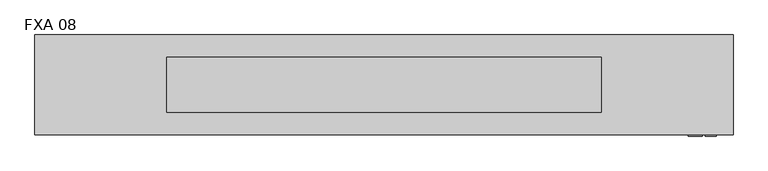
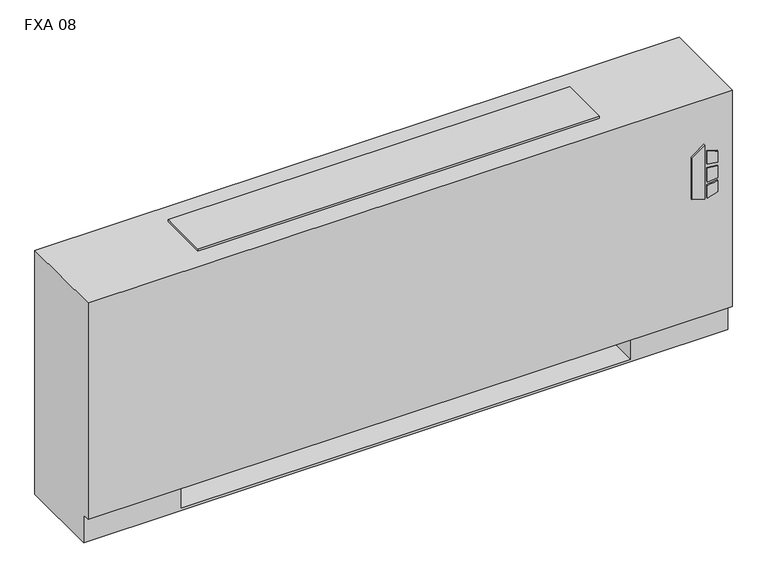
"""IFC4 building model written with IfcOpenShell, lengths in millimetres: proxy geometry, Vertical_Fan_Coil_Unit_-_FXA_-_IEC_-_2-Pipe_TS-FR_LH_2022 : FXA 08."""

from ifc_helpers import new_model, si_unit, point, frame, frame_2d, origin, place, context, project, spatial, polyline, circle_curve, trimmed, segment, composite_curve, outline, extrude, source, transform, mapped, element, save
from ifc_brep_helpers import plane_surface, revolved_surface, advanced_brep


def fxa_08_58934757(model_context):
    return source(origin(), model_context, "Body", "SolidModel", [
        extrude(outline(polyline([(391.6086829, 849.3868862), (381.6606126, 881.5602728), (523.831537, 881.5602728), (500.8095309, 849.3868862), (391.6086829, 849.3868862)])), frame((0.0, 12.7, 0.0), z_axis=(0.0, 1.0, 0.0), x_axis=(0.0, 0.0, 1.0)), (0.0, 0.0, 1.0), 3.175),
        extrude(outline(polyline([(470.6079683, 888.3186058), (467.4055757, 914.4), (496.6344168, 914.4), (504.6988318, 888.3186058), (470.6079683, 888.3186058)])), frame((0.0, 12.7, 0.0), z_axis=(0.0, 1.0, 0.0), x_axis=(0.0, 0.0, 1.0)), (0.0, 0.0, 1.0), 3.175),
        extrude(outline(polyline([(418.7444414, 914.4), (415.0789404, 888.3186058), (381.6606126, 888.3186058), (390.2948498, 914.4), (418.7444414, 914.4)])), frame((0.0, 12.7, 0.0), z_axis=(0.0, 1.0, 0.0), x_axis=(0.0, 0.0, 1.0)), (0.0, 0.0, 1.0), 3.175),
        extrude(outline(polyline([(458.0596028, 914.4), (460.3414292, 888.3186058), (424.4038806, 888.3186058), (427.1451456, 914.4), (458.0596028, 914.4)])), frame((0.0, 12.7, 0.0), z_axis=(0.0, 1.0, 0.0), x_axis=(0.0, 0.0, 1.0)), (0.0, 0.0, 1.0), 3.175),
        extrude(outline(polyline([(831.85, 223.266), (831.85, 81.534), (711.2, 81.534), (711.2, 223.266), (831.85, 223.266)])), frame((0.0, 0.0, 327.025), z_axis=(0.0, 0.0, 1.0), x_axis=(1.0, 0.0, 0.0)), (0.0, 0.0, 1.0), 260.35),
        extrude(outline(composite_curve([segment(trimmed(circle_curve(frame_2d((-469.9, 130.175)), 9.525), [point((-479.425, 130.175))], [point((-460.375, 130.175))], False, "CARTESIAN"), True, "CONTINUOUS"), segment(trimmed(circle_curve(frame_2d((-469.9, 130.175)), 9.525), [point((-460.375, 130.175))], [point((-479.425, 130.175))], False, "CARTESIAN"), True, "CONTINUOUS")], self_intersect=False)), frame((0.0, 0.0, 101.6), z_axis=(0.0, 0.0, 1.0), x_axis=(1.0, 0.0, 0.0)), (0.0, 0.0, 1.0), 25.4),
        extrude(outline(polyline([(-565.15, 63.5), (-565.15, 196.85), (-406.4, 196.85), (-406.4, 63.5), (-565.15, 63.5)])), frame((0.0, 0.0, 127.0), z_axis=(0.0, 0.0, 1.0), x_axis=(1.0, 0.0, 0.0)), (0.0, 0.0, 1.0), 50.8),
        extrude(outline(composite_curve([segment(trimmed(circle_curve(frame_2d((93.1926, 485.5972)), 7.9375), [point((93.1926, 493.5347))], [point((93.1926, 477.6597))], False, "CARTESIAN"), True, "CONTINUOUS"), segment(trimmed(circle_curve(frame_2d((93.1926, 485.5972)), 7.9375), [point((93.1926, 477.6597))], [point((93.1926, 493.5347))], False, "CARTESIAN"), True, "CONTINUOUS")], self_intersect=False)), frame((-457.2, 0.0, 0.0), z_axis=(1.0, 0.0, 0.0), x_axis=(0.0, 1.0, 0.0)), (0.0, 0.0, 1.0), 50.8),
        extrude(outline(composite_curve([segment(trimmed(circle_curve(frame_2d((141.3002, 458.9526)), 7.9375), [point((141.3002, 466.8901))], [point((141.3002, 451.0151))], False, "CARTESIAN"), True, "CONTINUOUS"), segment(trimmed(circle_curve(frame_2d((141.3002, 458.9526)), 7.9375), [point((141.3002, 451.0151))], [point((141.3002, 466.8901))], False, "CARTESIAN"), True, "CONTINUOUS")], self_intersect=False)), frame((-457.2, 0.0, 0.0), z_axis=(1.0, 0.0, 0.0), x_axis=(0.0, 1.0, 0.0)), (0.0, 0.0, 1.0), 50.8),
        advanced_brep(
        [(952.5, 244.475, 641.35), (-647.7, 244.475, 641.35), (-647.7, 15.875, 641.35), (952.5, 15.875, 641.35), (-647.7, 244.475, 0.0), (952.5, 244.475, 0.0), (952.5, 34.925, 0.0), (-647.7, 34.925, 0.0), (711.2, 244.475, 73.025), (939.8, 244.475, 73.025), (939.8, 244.475, 628.65), (711.2, 244.475, 628.65), (711.2, 244.475, 414.8650565), (739.775, 244.475, 414.8650565), (739.775, 244.475, 385.2349435), (711.2, 244.475, 385.2349435), (711.2, 244.475, 287.3375), (739.775, 244.475, 287.3375), (739.775, 244.475, 258.7625), (711.2, 244.475, 258.7625), (711.2, 244.475, 141.2875), (739.775, 244.475, 141.2875), (739.775, 244.475, 112.7125), (711.2, 244.475, 112.7125), (-406.4, 244.475, 628.65), (-635.0, 244.475, 628.65), (-635.0, 244.475, 73.025), (-406.4, 244.475, 73.025), (-406.4, 244.475, 112.7125), (-434.975, 244.475, 112.7125), (-434.975, 244.475, 141.2875), (-406.4, 244.475, 141.2875), (-406.4, 244.475, 258.7625), (-434.975, 244.475, 258.7625), (-434.975, 244.475, 287.3375), (-406.4, 244.475, 287.3375), (-406.4, 244.475, 385.2349435), (-434.975, 244.475, 385.2349435), (-434.975, 244.475, 414.8650565), (-406.4, 244.475, 414.8650565), (729.4626, 244.475, 127.0), (718.3374, 244.475, 127.0), (729.4626, 244.475, 400.05), (718.3374, 244.475, 400.05), (729.4626, 244.475, 273.05), (718.3374, 244.475, 273.05), (-413.5374, 244.475, 127.0), (-424.6626, 244.475, 127.0), (-413.5374, 244.475, 273.05), (-424.6626, 244.475, 273.05), (-413.5374, 244.475, 400.05), (-424.6626, 244.475, 400.05), (-647.7, 34.925, 73.025), (-647.7, 15.875, 73.025), (952.5, 15.875, 73.025), (952.5, 34.925, 73.025), (-406.4, 34.925, 73.025), (-406.4, 219.075, 73.025), (711.2, 219.075, 73.025), (711.2, 34.925, 73.025), (711.2, 34.925, 6.35), (-406.4, 34.925, 6.35), (711.2, 41.275, 628.65), (939.8, 41.275, 628.65), (939.8, 41.275, 73.025), (711.2, 41.275, 73.025), (-406.4, 41.275, 628.65), (-406.4, 41.275, 73.025), (-635.0, 41.275, 73.025), (-635.0, 41.275, 628.65), (711.2, 219.075, 73.025), (711.2, 238.125, 112.7125), (711.2, 238.125, 141.2875), (711.2, 238.125, 258.7625), (711.2, 238.125, 287.3375), (711.2, 238.125, 385.2349435), (711.2, 238.125, 414.8650565), (-406.4, 219.075, 73.025), (-406.4, 238.125, 414.8650565), (-406.4, 238.125, 385.2349435), (-406.4, 238.125, 287.3375), (-406.4, 238.125, 258.7625), (-406.4, 238.125, 141.2875), (-406.4, 238.125, 112.7125), (-406.4, 219.075, 6.35), (711.2, 219.075, 6.35), (739.775, 238.125, 112.7125), (739.775, 238.125, 141.2875), (718.3374, 238.125, 127.0), (729.4626, 238.125, 127.0), (739.775, 238.125, 258.7625), (739.775, 238.125, 287.3375), (718.3374, 238.125, 273.05), (729.4626, 238.125, 273.05), (739.775, 238.125, 385.2349435), (739.775, 238.125, 414.8650565), (718.3374, 238.125, 400.05), (729.4626, 238.125, 400.05), (-434.975, 238.125, 141.2875), (-434.975, 238.125, 112.7125), (-424.6626, 238.125, 127.0), (-413.5374, 238.125, 127.0), (-434.975, 238.125, 287.3375), (-434.975, 238.125, 258.7625), (-424.6626, 238.125, 273.05), (-413.5374, 238.125, 273.05), (-434.975, 238.125, 414.8650565), (-434.975, 238.125, 385.2349435), (-424.6626, 238.125, 400.05), (-413.5374, 238.125, 400.05)],
        [
            (0, 1),
            (1, 2),
            (2, 3),
            (3, 0),
            (4, 5),
            (5, 6),
            (6, 7),
            (7, 4),
            (0, 5),
            (4, 1),
            (8, 9),
            (9, 10),
            (10, 11),
            (11, 12),
            (12, 13),
            (13, 14),
            (14, 15),
            (15, 16),
            (16, 17),
            (17, 18),
            (18, 19),
            (19, 20),
            (20, 21),
            (21, 22),
            (22, 23),
            (23, 8),
            (24, 25),
            (25, 26),
            (26, 27),
            (27, 28),
            (28, 29),
            (29, 30),
            (30, 31),
            (31, 32),
            (32, 33),
            (33, 34),
            (34, 35),
            (35, 36),
            (36, 37),
            (37, 38),
            (38, 39),
            (39, 24),
            (40, 41, circle_curve(frame((723.9, 244.475, 127.0), z_axis=(0.0, -1.0, 0.0), x_axis=(-1.0, 0.0, 0.0)), 5.5626)),
            (41, 40, circle_curve(frame((723.9, 244.475, 127.0), z_axis=(0.0, -1.0, 0.0), x_axis=(-1.0, 0.0, 0.0)), 5.5626)),
            (42, 43, circle_curve(frame((723.9, 244.475, 400.05), z_axis=(0.0, -1.0, 0.0), x_axis=(-1.0, 0.0, 0.0)), 5.5626)),
            (43, 42, circle_curve(frame((723.9, 244.475, 400.05), z_axis=(0.0, -1.0, 0.0), x_axis=(-1.0, 0.0, 0.0)), 5.5626)),
            (44, 45, circle_curve(frame((723.9, 244.475, 273.05), z_axis=(0.0, -1.0, 0.0), x_axis=(-1.0, 0.0, 0.0)), 5.5626)),
            (45, 44, circle_curve(frame((723.9, 244.475, 273.05), z_axis=(0.0, -1.0, 0.0), x_axis=(-1.0, 0.0, 0.0)), 5.5626)),
            (46, 47, circle_curve(frame((-419.1, 244.475, 127.0), z_axis=(0.0, -1.0, 0.0), x_axis=(-1.0, 0.0, 0.0)), 5.5626)),
            (47, 46, circle_curve(frame((-419.1, 244.475, 127.0), z_axis=(0.0, -1.0, 0.0), x_axis=(-1.0, 0.0, 0.0)), 5.5626)),
            (48, 49, circle_curve(frame((-419.1, 244.475, 273.05), z_axis=(0.0, -1.0, 0.0), x_axis=(-1.0, 0.0, 0.0)), 5.5626)),
            (49, 48, circle_curve(frame((-419.1, 244.475, 273.05), z_axis=(0.0, -1.0, 0.0), x_axis=(-1.0, 0.0, 0.0)), 5.5626)),
            (50, 51, circle_curve(frame((-419.1, 244.475, 400.05), z_axis=(0.0, -1.0, 0.0), x_axis=(-1.0, 0.0, 0.0)), 5.5626)),
            (51, 50, circle_curve(frame((-419.1, 244.475, 400.05), z_axis=(0.0, -1.0, 0.0), x_axis=(-1.0, 0.0, 0.0)), 5.5626)),
            (7, 52),
            (52, 53),
            (53, 2),
            (53, 54),
            (54, 3),
            (54, 55),
            (55, 6),
            (52, 56),
            (56, 57),
            (57, 58),
            (58, 59),
            (59, 55),
            (59, 60),
            (60, 61),
            (61, 56),
            (62, 63),
            (63, 64),
            (64, 65),
            (65, 62),
            (66, 67),
            (67, 68),
            (68, 69),
            (69, 66),
            (65, 70),
            (70, 8),
            (23, 71),
            (71, 72),
            (72, 20),
            (19, 73),
            (73, 74),
            (74, 16),
            (15, 75),
            (75, 76),
            (76, 12),
            (11, 62),
            (64, 9),
            (63, 10),
            (69, 25),
            (24, 66),
            (68, 26),
            (67, 77),
            (77, 27),
            (39, 78),
            (78, 79),
            (79, 36),
            (35, 80),
            (80, 81),
            (81, 32),
            (31, 82),
            (82, 83),
            (83, 28),
            (57, 84),
            (84, 85),
            (85, 58),
            (85, 60),
            (84, 61),
            (71, 86),
            (86, 87),
            (87, 72),
            (88, 89, circle_curve(frame((723.9, 238.125, 127.0), z_axis=(0.0, 1.0, 0.0), x_axis=(-1.0, 0.0, 0.0)), 5.5626)),
            (89, 88, circle_curve(frame((723.9, 238.125, 127.0), z_axis=(0.0, 1.0, 0.0), x_axis=(-1.0, 0.0, 0.0)), 5.5626)),
            (73, 90),
            (90, 91),
            (91, 74),
            (92, 93, circle_curve(frame((723.9, 238.125, 273.05), z_axis=(0.0, 1.0, 0.0), x_axis=(-1.0, 0.0, 0.0)), 5.5626)),
            (93, 92, circle_curve(frame((723.9, 238.125, 273.05), z_axis=(0.0, 1.0, 0.0), x_axis=(-1.0, 0.0, 0.0)), 5.5626)),
            (75, 94),
            (94, 95),
            (95, 76),
            (96, 97, circle_curve(frame((723.9, 238.125, 400.05), z_axis=(0.0, 1.0, 0.0), x_axis=(-1.0, 0.0, 0.0)), 5.5626)),
            (97, 96, circle_curve(frame((723.9, 238.125, 400.05), z_axis=(0.0, 1.0, 0.0), x_axis=(-1.0, 0.0, 0.0)), 5.5626)),
            (98, 99),
            (99, 83),
            (82, 98),
            (100, 101, circle_curve(frame((-419.1, 238.125, 127.0), z_axis=(0.0, 1.0, 0.0), x_axis=(-1.0, 0.0, 0.0)), 5.5626)),
            (101, 100, circle_curve(frame((-419.1, 238.125, 127.0), z_axis=(0.0, 1.0, 0.0), x_axis=(-1.0, 0.0, 0.0)), 5.5626)),
            (102, 103),
            (103, 81),
            (80, 102),
            (104, 105, circle_curve(frame((-419.1, 238.125, 273.05), z_axis=(0.0, 1.0, 0.0), x_axis=(-1.0, 0.0, 0.0)), 5.5626)),
            (105, 104, circle_curve(frame((-419.1, 238.125, 273.05), z_axis=(0.0, 1.0, 0.0), x_axis=(-1.0, 0.0, 0.0)), 5.5626)),
            (106, 107),
            (107, 79),
            (78, 106),
            (108, 109, circle_curve(frame((-419.1, 238.125, 400.05), z_axis=(0.0, 1.0, 0.0), x_axis=(-1.0, 0.0, 0.0)), 5.5626)),
            (109, 108, circle_curve(frame((-419.1, 238.125, 400.05), z_axis=(0.0, 1.0, 0.0), x_axis=(-1.0, 0.0, 0.0)), 5.5626)),
            (87, 21),
            (86, 22),
            (91, 17),
            (90, 18),
            (95, 13),
            (94, 14),
            (30, 98),
            (99, 29),
            (34, 102),
            (103, 33),
            (38, 106),
            (107, 37),
            (88, 41),
            (40, 89),
            (96, 43),
            (42, 97),
            (92, 45),
            (44, 93),
            (100, 47),
            (46, 101),
            (104, 49),
            (48, 105),
            (108, 51),
            (50, 109),
        ],
        [
            plane_surface(frame((-647.7, 244.475, 641.35), z_axis=(0.0, 0.0, 1.0), x_axis=(-1.0, 0.0, 0.0))),
            plane_surface(frame((-647.7, 244.475, 0.0), z_axis=(0.0, 0.0, -1.0), x_axis=(1.0, 0.0, 0.0))),
            plane_surface(frame((952.5, 244.475, 641.35), z_axis=(0.0, 1.0, 0.0), x_axis=(0.0, 0.0, -1.0))),
            plane_surface(frame((-647.7, 244.475, 641.35), z_axis=(-1.0, 0.0, 0.0), x_axis=(0.0, 0.0, -1.0))),
            plane_surface(frame((-647.7, 15.875, 641.35), z_axis=(0.0, -1.0, 0.0), x_axis=(0.0, 0.0, -1.0))),
            plane_surface(frame((952.5, 15.875, 641.35), z_axis=(1.0, 0.0, 0.0), x_axis=(0.0, 0.0, -1.0))),
            plane_surface(frame((-647.7, 15.875, 73.025), z_axis=(0.0, 0.0, -1.0), x_axis=(1.0, 0.0, 0.0))),
            plane_surface(frame((-647.7, 34.925, 73.025), z_axis=(0.0, -1.0, 0.0), x_axis=(1.0, 0.0, 0.0))),
            plane_surface(frame((711.2, 41.275, 628.65), z_axis=(0.0, 1.0, 0.0), x_axis=(0.0, 0.0, -1.0))),
            plane_surface(frame((711.2, 41.275, 628.65), z_axis=(1.0, 0.0, 0.0), x_axis=(0.0, 1.0, 0.0))),
            plane_surface(frame((711.2, 41.275, 73.025), z_axis=(0.0, 0.0, 1.0), x_axis=(0.0, 1.0, 0.0))),
            plane_surface(frame((939.8, 41.275, 73.025), z_axis=(-1.0, 0.0, 0.0), x_axis=(0.0, 1.0, 0.0))),
            plane_surface(frame((939.8, 41.275, 628.65), z_axis=(0.0, 0.0, -1.0), x_axis=(0.0, 1.0, 0.0))),
            plane_surface(frame((-406.4, 41.275, 628.65), z_axis=(0.0, 0.0, -1.0), x_axis=(0.0, 1.0, 0.0))),
            plane_surface(frame((-635.0, 41.275, 628.65), z_axis=(1.0, 0.0, 0.0), x_axis=(0.0, 1.0, 0.0))),
            plane_surface(frame((-635.0, 41.275, 73.025), z_axis=(0.0, 0.0, 1.0), x_axis=(0.0, 1.0, 0.0))),
            plane_surface(frame((-406.4, 41.275, 73.025), z_axis=(-1.0, 0.0, 0.0), x_axis=(0.0, 1.0, 0.0))),
            plane_surface(frame((711.2, 219.075, 73.025), z_axis=(0.0, -1.0, 0.0), x_axis=(0.0, 0.0, -1.0))),
            plane_surface(frame((711.2, 219.075, 73.025), z_axis=(-1.0, 0.0, 0.0), x_axis=(0.0, -1.0, 0.0))),
            plane_surface(frame((711.2, 219.075, 6.35), z_axis=(0.0, 0.0, 1.0), x_axis=(0.0, -1.0, 0.0))),
            plane_surface(frame((-406.4, 219.075, 6.35), z_axis=(1.0, 0.0, 0.0), x_axis=(0.0, -1.0, 0.0))),
            plane_surface(frame((739.775, 238.125, 141.2875), z_axis=(0.0, -1.0, 0.0), x_axis=(-1.0, 0.0, 0.0))),
            plane_surface(frame((711.2, 244.475, 141.2875), z_axis=(0.0, 0.0, 1.0), x_axis=(0.0, -1.0, 0.0))),
            plane_surface(frame((739.775, 244.475, 141.2875), z_axis=(1.0, 0.0, 0.0), x_axis=(0.0, -1.0, 0.0))),
            plane_surface(frame((739.775, 244.475, 112.7125), z_axis=(0.0, 0.0, -1.0), x_axis=(0.0, -1.0, 0.0))),
            plane_surface(frame((711.2, 244.475, 287.3375), z_axis=(0.0, 0.0, 1.0), x_axis=(0.0, -1.0, 0.0))),
            plane_surface(frame((739.775, 244.475, 287.3375), z_axis=(1.0, 0.0, 0.0), x_axis=(0.0, -1.0, 0.0))),
            plane_surface(frame((739.775, 244.475, 258.7625), z_axis=(0.0, 0.0, -1.0), x_axis=(0.0, -1.0, 0.0))),
            plane_surface(frame((711.2, 244.475, 414.8650565), z_axis=(0.0, 0.0, 1.0), x_axis=(0.0, -1.0, 0.0))),
            plane_surface(frame((739.775, 244.475, 414.8650565), z_axis=(1.0, 0.0, 0.0), x_axis=(0.0, -1.0, 0.0))),
            plane_surface(frame((739.775, 244.475, 385.2349435), z_axis=(0.0, 0.0, -1.0), x_axis=(0.0, -1.0, 0.0))),
            plane_surface(frame((-434.975, 244.475, 141.2875), z_axis=(0.0, 0.0, 1.0), x_axis=(0.0, -1.0, 0.0))),
            plane_surface(frame((-406.4, 244.475, 112.7125), z_axis=(0.0, 0.0, -1.0), x_axis=(0.0, -1.0, 0.0))),
            plane_surface(frame((-434.975, 244.475, 112.7125), z_axis=(-1.0, 0.0, 0.0), x_axis=(0.0, -1.0, 0.0))),
            plane_surface(frame((-434.975, 244.475, 287.3375), z_axis=(0.0, 0.0, 1.0), x_axis=(0.0, -1.0, 0.0))),
            plane_surface(frame((-406.4, 244.475, 258.7625), z_axis=(0.0, 0.0, -1.0), x_axis=(0.0, -1.0, 0.0))),
            plane_surface(frame((-434.975, 244.475, 258.7625), z_axis=(-1.0, 0.0, 0.0), x_axis=(0.0, -1.0, 0.0))),
            plane_surface(frame((-434.975, 244.475, 414.8650565), z_axis=(0.0, 0.0, 1.0), x_axis=(0.0, -1.0, 0.0))),
            plane_surface(frame((-406.4, 244.475, 385.2349435), z_axis=(0.0, 0.0, -1.0), x_axis=(0.0, -1.0, 0.0))),
            plane_surface(frame((-434.975, 244.475, 385.2349435), z_axis=(-1.0, 0.0, 0.0), x_axis=(0.0, -1.0, 0.0))),
            revolved_surface(polyline([(718.3374, 238.125, 127.0), (718.3374, 244.475, 127.0)]), (723.9, 244.475, 127.0), (0.0, -1.0, 0.0)),
            revolved_surface(polyline([(718.3374, 238.125, 400.05), (718.3374, 244.475, 400.05)]), (723.9, 244.475, 400.05), (0.0, -1.0, 0.0)),
            revolved_surface(polyline([(718.3374, 238.125, 273.05), (718.3374, 244.475, 273.05)]), (723.9, 244.475, 273.05), (0.0, -1.0, 0.0)),
            revolved_surface(polyline([(-424.6626, 238.125, 127.0), (-424.6626, 244.475, 127.0)]), (-419.1, 244.475, 127.0), (0.0, -1.0, 0.0)),
            revolved_surface(polyline([(-424.6626, 238.125, 273.05), (-424.6626, 244.475, 273.05)]), (-419.1, 244.475, 273.05), (0.0, -1.0, 0.0)),
            revolved_surface(polyline([(-424.6626, 238.125, 400.05), (-424.6626, 244.475, 400.05)]), (-419.1, 244.475, 400.05), (0.0, -1.0, 0.0)),
        ],
        [
            (0, [[1, 2, 3, 4]]),
            (1, [[5, 6, 7, 8]]),
            (2, [[-1, 9, -5, 10], [11, 12, 13, 14, 15, 16, 17, 18, 19, 20, 21, 22, 23, 24, 25, 26], [27, 28, 29, 30, 31, 32, 33, 34, 35, 36, 37, 38, 39, 40, 41, 42], [43, 44], [45, 46], [47, 48], [49, 50], [51, 52], [53, 54]]),
            (3, [[-2, -10, -8, 55, 56, 57]]),
            (4, [[-3, -57, 58, 59]]),
            (5, [[-4, -59, 60, 61, -6, -9]]),
            (6, [[-56, 62, 63, 64, 65, 66, -60, -58]]),
            (7, [[-7, -61, -66, 67, 68, 69, -62, -55]]),
            (8, [[70, 71, 72, 73]]),
            (8, [[74, 75, 76, 77]]),
            (9, [[-73, 78, 79, -26, 80, 81, 82, -22, 83, 84, 85, -18, 86, 87, 88, -14, 89]]),
            (10, [[-72, 90, -11, -79, -78]]),
            (11, [[-71, 91, -12, -90]]),
            (12, [[-70, -89, -13, -91]]),
            (13, [[-77, 92, -27, 93]]),
            (14, [[-76, 94, -28, -92]]),
            (15, [[-75, 95, 96, -29, -94]]),
            (16, [[-74, -93, -42, 97, 98, 99, -38, 100, 101, 102, -34, 103, 104, 105, -30, -96, -95]]),
            (17, [[-64, 106, 107, 108]]),
            (18, [[-108, 109, -67, -65]]),
            (19, [[-107, 110, -68, -109]]),
            (20, [[-106, -63, -69, -110]]),
            (21, [[111, 112, 113, -81], [114, 115]]),
            (21, [[116, 117, 118, -84], [119, 120]]),
            (21, [[121, 122, 123, -87], [124, 125]]),
            (21, [[126, 127, -104, 128], [129, 130]]),
            (21, [[131, 132, -101, 133], [134, 135]]),
            (21, [[136, 137, -98, 138], [139, 140]]),
            (22, [[-113, 141, -23, -82]]),
            (23, [[-112, 142, -24, -141]]),
            (24, [[-111, -80, -25, -142]]),
            (25, [[-118, 143, -19, -85]]),
            (26, [[-117, 144, -20, -143]]),
            (27, [[-116, -83, -21, -144]]),
            (28, [[-123, 145, -15, -88]]),
            (29, [[-122, 146, -16, -145]]),
            (30, [[-121, -86, -17, -146]]),
            (31, [[-128, -103, -33, 147]]),
            (32, [[-127, 148, -31, -105]]),
            (33, [[-126, -147, -32, -148]]),
            (34, [[-133, -100, -37, 149]]),
            (35, [[-132, 150, -35, -102]]),
            (36, [[-131, -149, -36, -150]]),
            (37, [[-138, -97, -41, 151]]),
            (38, [[-137, 152, -39, -99]]),
            (39, [[-136, -151, -40, -152]]),
            (40, [[153, -43, 154, -114]]),
            (40, [[-153, -115, -154, -44]]),
            (41, [[155, -45, 156, -124]]),
            (41, [[-155, -125, -156, -46]]),
            (42, [[157, -47, 158, -119]]),
            (42, [[-157, -120, -158, -48]]),
            (43, [[159, -49, 160, -129]]),
            (43, [[-159, -130, -160, -50]]),
            (44, [[161, -51, 162, -134]]),
            (44, [[-161, -135, -162, -52]]),
            (45, [[163, -53, 164, -139]]),
            (45, [[-163, -140, -164, -54]]),
        ],
    ),
        extrude(outline(polyline([(650.875, 193.675), (650.875, 66.675), (-346.075, 66.675), (-346.075, 193.675), (650.875, 193.675)])), frame((0.0, 0.0, 641.35), z_axis=(0.0, 0.0, 1.0), x_axis=(1.0, 0.0, 0.0)), (0.0, 0.0, 1.0), 6.35),
    ])


if __name__ == "__main__":
    model = new_model("IFC4")
    model_context = context("Model", 3, world=origin())
    ifc_project = project(units=[si_unit("LENGTHUNIT", "METRE", prefix="MILLI")], contexts=[model_context])
    site = spatial("IfcSite", under=ifc_project)
    building = spatial("IfcBuilding", under=site)
    placement = place(None, origin())
    fxa_08_shape = fxa_08_58934757(model_context)
    element("IfcBuildingElementProxy", 1, Name="Vertical_Fan_Coil_Unit_-_FXA_-_IEC_-_2-Pipe_TS-FR_LH_2022 : FXA 08", ObjectType="Vertical_Fan_Coil_Unit_-_FXA_-_IEC_-_2-Pipe_TS-FR_LH_2022 : FXA 08", at=placement, inside=building, context=model_context, shape_type="MappedRepresentation", body=[
        mapped(fxa_08_shape, transform((0.0, 0.0, 0.0), x_axis=(1.0, 0.0, 0.0), y_axis=(0.0, 1.0, 0.0), z_axis=(0.0, 0.0, 1.0))),
    ])
    save(model, "model.ifc")
